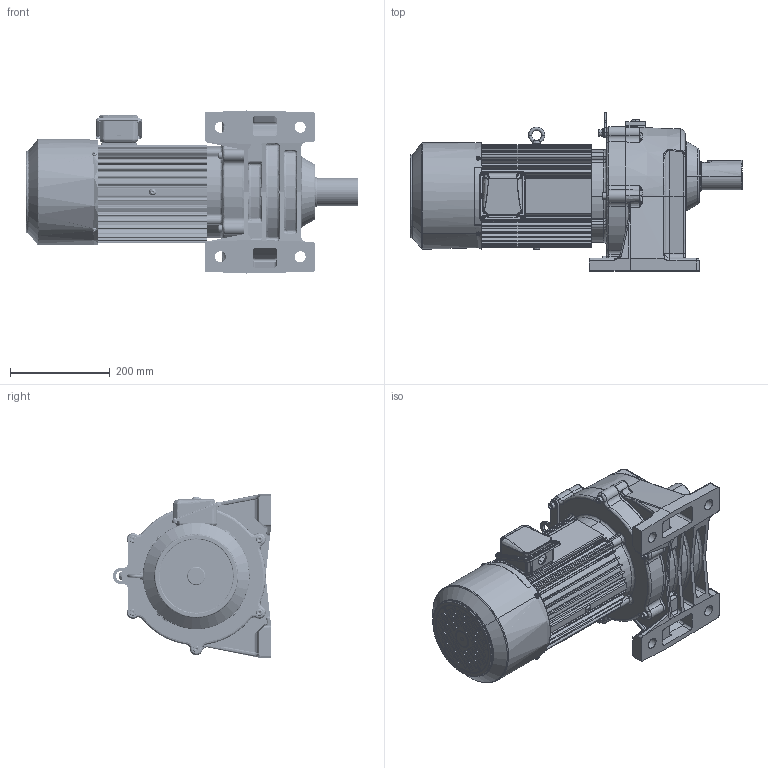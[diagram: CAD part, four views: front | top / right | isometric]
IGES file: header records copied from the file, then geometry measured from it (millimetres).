
Start section: SolidWorks IGES file using analytic representation for surfaces
Global section: file name: \\100.100.100.8\1_共有作業フォルダ\1-5_３Ｄデータ\solidworks\personal-folder\H.Nagayama\SGP1外形_075~370\P1(3D)_075~370\igs\TMLB2-37-(10~50).IGS; native system: SolidWorks 2018; preprocessor: SolidWorks 2018; author: user; date: 210309.145516; units: millimetre
Bounding box: 666 x 316.87 x 327 mm (x, y, z)
Surface area: 1212916.1 mm2 (no closed solid volume)
Topology: 0 solids, 0 shells, 2771 faces, 32177 edges, 32094 vertices
Faces by surface type: bspline 1407, revolution 1364
